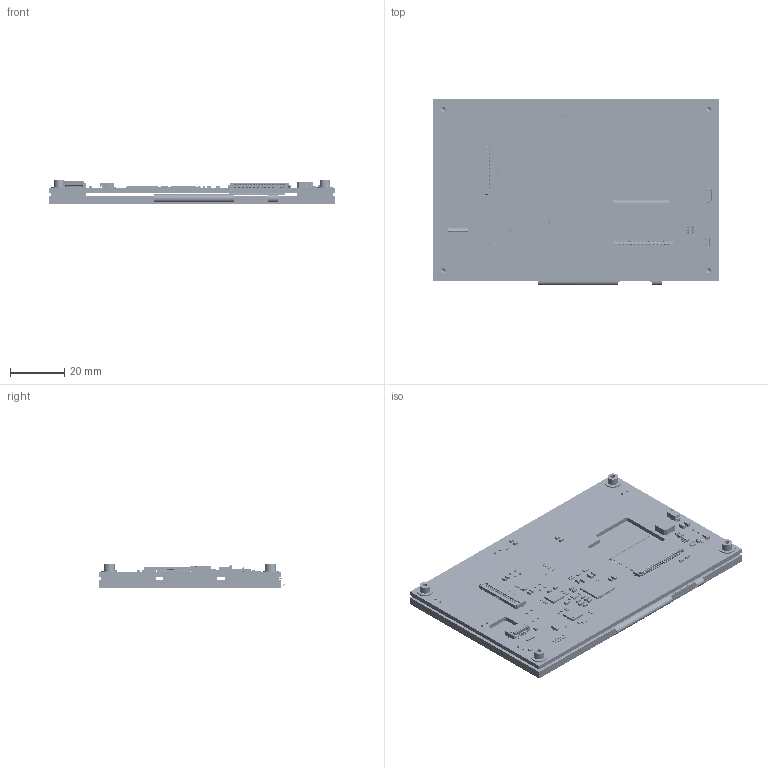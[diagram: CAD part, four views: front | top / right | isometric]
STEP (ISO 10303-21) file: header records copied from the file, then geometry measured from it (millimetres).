
FILE_DESCRIPTION (( 'STEP AP214' ), '1' );
FILE_NAME ('CFA480272E0-043SN.STEP', '2026-02-10T22:41:59', ( '' ), ( '' ), 'SwSTEP 2.0', 'SolidWorks 2021', '' );
FILE_SCHEMA (( 'AUTOMOTIVE_DESIGN' ));
Length unit declared in the file: millimetre
Products named in the file (47): ERJ2R_Family_CAM_CMP-009-00188-1; 00133_CAM_CMP-004-000007-1; ERJ2R_Family_CAM_CMP-005-000027-2; CS050Z10G-A0; ERJ2R_Family_CAM_CMP-009-00196-1; 01655_CAM_CMP-004-000010-1; INDP6060X25N_CMP-007-000033-1; 00289_CAM_CMP-004-000008-1; CFAF480272H0-043SN; ERJ2R_Family_CAM_03071_SCH-1; 03064_CAM_03063_SCH-1; CL05_Footprint_CMP-007-000018-1; ERJ2R_Family_CAM_CMP-009-00186-2; QFN50P500X500X85_HS-33N_CMP-007-000032-3; FP-C1608-080-0_1-IPC_C_CMP-004-000007-3; CFA480272E0-043SN; 00289_CAM_00289_SCH-1; 01655_CAM_01655_SCH-1; CS050Z40G-B0; 03064_CAM_03064_SCH-1; cfa-10121 0v1; 15032_CAM_CMP-004-000012-1; FP-CL313-IPC_B_CMP-001-00085-3; ERJ2R_Family_CAM_03068_SCH-1; FP-CL696-IPC_B_CMP-001-00089-1; ERJ2R_Family_CAM_CMP-009-00179-1; FP-CL165-IPC_B_CMP-001-00090-2; 00289_CAM_CMP-004-000001-1; FP-SOT23-IPC_B_CMP-007-000034-2; FA-20H_12.0000MD30Z-K3_CMP-002-00080-3; ERJ2R_Family_CAM_CMP-009-00184-2; 00133_CAM_00133_SCH-15; SON127P600X80_HS-9N_CMP-002-00081-2; ERJ2R_Family_CAM_CMP-009-00187-1; FP-SOT26_SC74R-MFG_CMP-001-0018-1; CFPN_01712; 16110_CAM_00191_SCH-1; cfa-10121_BOARD; QFN50P900X900X80_HS-65N_CMP-007-000016-3; FP-DO-214AC-MFG_CMP-004-00040-1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
Assembly tree (98 placements, depth 3):
  CFA480272E0-043SN
    cfa-10121 0v1
      cfa-10121_BOARD
      RESC0402(1005)_L_CMP-009-00203-6  x5
      FP-CL165-IPC_B_CMP-001-00090-2  x3
      00289_CAM_CMP-004-000008-1  x2
      FP-C1608-080-0_1-IPC_C_CMP-004-000007-3  x2
      ERJ2R_Family_CAM_CMP-009-00179-1  x7
      ERJ2R_Family_CAM_CMP-009-00188-1
      FP-SOT23-IPC_B_CMP-007-000034-2  x2
      FP-CL313-IPC_B_CMP-001-00085-3
      CL05_Footprint_CMP-007-000018-1
      01655_CAM_CMP-004-000010-1  x4
      FA-20H_12.0000MD30Z-K3_CMP-002-00080-3
      SON127P600X80_HS-9N_CMP-002-00081-2
      FP-SOT26_SC74R-MFG_CMP-001-0018-1
      QFN50P500X500X85_HS-33N_CMP-007-000032-3
      ERJ2R_Family_CAM_CMP-005-000027-2  x5
      ERJ2R_Family_CAM_CMP-009-00183-1
      ERJ2R_Family_CAM_03071_SCH-1
      16110_CAM_00191_SCH-1
      ERJ2R_Family_CAM_03068_SCH-1
      03064_CAM_03063_SCH-1  x2
      03064_CAM_03064_SCH-1
      ERJ2R_Family_CAM_CMP-005-000028-2  x2
      17034_CMP-009-00206-2
      ERJ2R_Family_CAM_CMP-009-00187-1
      ERJ2R_Family_CAM_CMP-009-00186-2
      ERJ2R_Family_CAM_CMP-009-00196-1
      ERJ2R_Family_CAM_CMP-009-00184-2
      ERJ2R_Family_CAM_CMP-005-000029-3  x2
      QFN50P900X900X80_HS-65N_CMP-007-000016-3
      INDP6060X25N_CMP-007-000033-1
      CS050Y30T-B0_CAM_CMP-009-000039-3
      FP-DO-214AC-MFG_CMP-004-00040-1
      00289_CAM_00289_SCH-1  x9
      00133_CAM_00133_SCH-15  x12
      00289_CAM_CMP-004-000001-1
      FP-CL696-IPC_B_CMP-001-00089-1  x2
      00133_CAM_CMP-004-000007-1
      15032_CAM_CMP-004-000012-1  x2
      01655_CAM_01655_SCH-1
    CFAF480272H0-043SN
    VHB Tape 5952P CFAPN013196  x4
    CS050Z40G-B0
    CFPN_01712  x4
    CS050Z10G-A0
Bounding box: 105.5 x 68.62 x 8.6 mm (x, y, z)
Volume: 32950.7 mm3; surface area: 38839.8 mm2
Topology: 489 solids, 602 shells, 17751 faces, 49292 edges, 32085 vertices
Faces by surface type: plane 11455, cylinder 4479, bspline 1536, sphere 265, torus 8, cone 8
Entity records: 629616 total; most frequent: CARTESIAN_POINT 144579, ORIENTED_EDGE 88836, DIRECTION 68418, EDGE_CURVE 44421, VECTOR 30470, LINE 30470, VERTEX_POINT 28934, AXIS2_PLACEMENT_3D 18974
